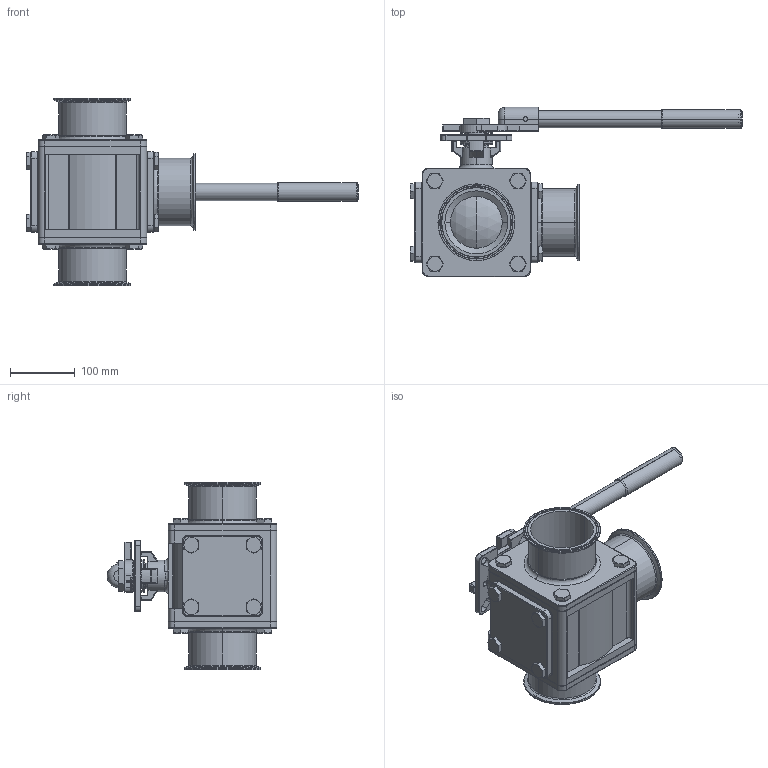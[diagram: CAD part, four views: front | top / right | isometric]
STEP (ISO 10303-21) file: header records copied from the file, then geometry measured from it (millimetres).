
FILE_DESCRIPTION (( 'STEP AP203' ), '1' );
FILE_NAME ('EG93CCC-64.0.STEP', '2019-07-02T02:30:39', ( '' ), ( '' ), 'SwSTEP 2.0', 'SolidWorks 2014', '' );
FILE_SCHEMA (( 'CONFIG_CONTROL_DESIGN' ));
Length unit declared in the file: millimetre
Products named in the file (24): 21.PLAIN WASHER3.0-4.0; 4.SEAT1-4.0; 14.HANDLE3.0-4.0-2; 12.3WAY-NUT3.0-4.0; 14.HANDLE2.5-4.0-3; 1.3WAY-BODY4.0; 9.RING3.0-4.0; EG93CCC-64.0; 2.3WAY-CAP-C-4.0B; 20.SEAT BACK4.0; 7.O-RING3.0-4.0; 19.3WAY-CAP4.0; 10.BEVEL WASHER3.0-4.0; 18.THINNER NUT3.0-4.0; 8.STEM PACKING3.0-4.0; 6.THRUST WASHER3.0-4.0; 14.HANDLE3.0-4.0-1; 22.SEAT2-4.0; 3.3WAY-BALL-4.0-L; 13.STEM3.0-4.0; 15.SPRING WASHER4.0; 17.LOCKING TAB3.0-4.0; 16.BOLT4.0; 2.3WAY-CAP-C-4.0S
Assembly tree (57 placements, depth 2):
  EG93CCC-64.0
    1.3WAY-BODY4.0
    4.SEAT1-4.0  x2
    20.SEAT BACK4.0
    22.SEAT2-4.0  x2
    13.STEM3.0-4.0
    6.THRUST WASHER3.0-4.0
    7.O-RING3.0-4.0
    3.3WAY-BALL-4.0-L
    2.3WAY-CAP-C-4.0S
    2.3WAY-CAP-C-4.0B  x2
    19.3WAY-CAP4.0
    15.SPRING WASHER4.0  x16
    16.BOLT4.0  x16
    8.STEM PACKING3.0-4.0
    9.RING3.0-4.0
    10.BEVEL WASHER3.0-4.0  x2
    18.THINNER NUT3.0-4.0
    17.LOCKING TAB3.0-4.0
    21.PLAIN WASHER3.0-4.0
    14.HANDLE2.5-4.0-3
    14.HANDLE3.0-4.0-1
    14.HANDLE3.0-4.0-2
    12.3WAY-NUT3.0-4.0
Bounding box: 513.7 x 262.39 x 290 mm (x, y, z)
Volume: 4156293.9 mm3; surface area: 966240.6 mm2
Topology: 58 solids, 58 shells, 1564 faces, 3516 edges, 2074 vertices
Faces by surface type: cylinder 560, plane 405, cone 265, torus 220, sphere 59, bspline 55
Entity records: 36350 total; most frequent: CARTESIAN_POINT 8401, DIRECTION 5643, ORIENTED_EDGE 4844, EDGE_CURVE 2422, AXIS2_PLACEMENT_3D 2390, VERTEX_POINT 1430, CIRCLE 1323, EDGE_LOOP 1174
